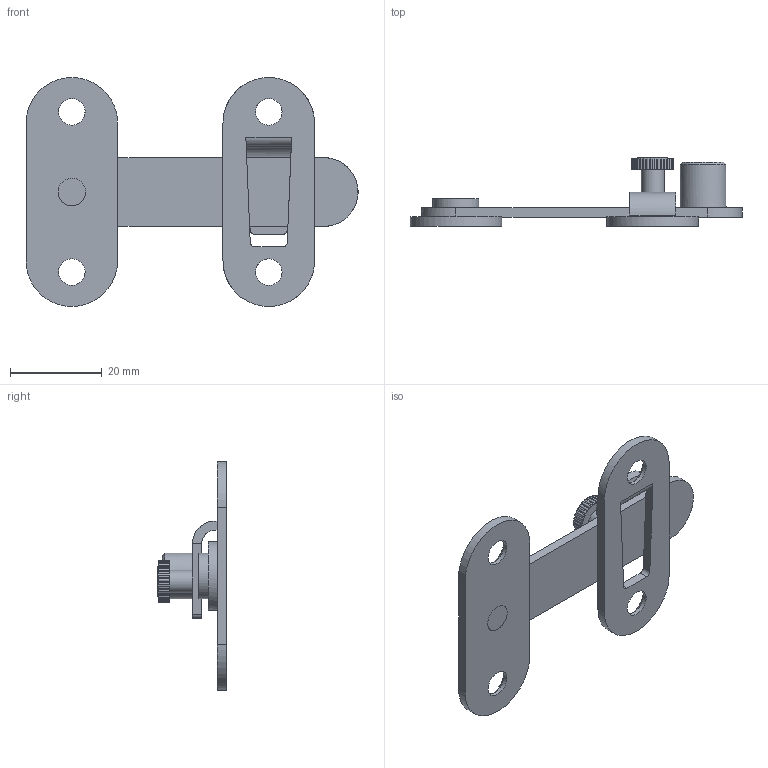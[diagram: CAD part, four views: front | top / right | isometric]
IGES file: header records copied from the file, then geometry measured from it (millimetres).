
Global section: file name: DR_GS2-2; native system: Autodesk Inventor 2015; preprocessor: unknown; author: CH.J; date: 20210303.160301; units: millimetre
Bounding box: 72.49 x 15 x 49.97 mm (x, y, z)
Volume: 6706.2 mm3; surface area: 7526.9 mm2
Topology: 5 solids, 5 shells, 132 faces, 361 edges, 243 vertices
Faces by surface type: bspline 132
